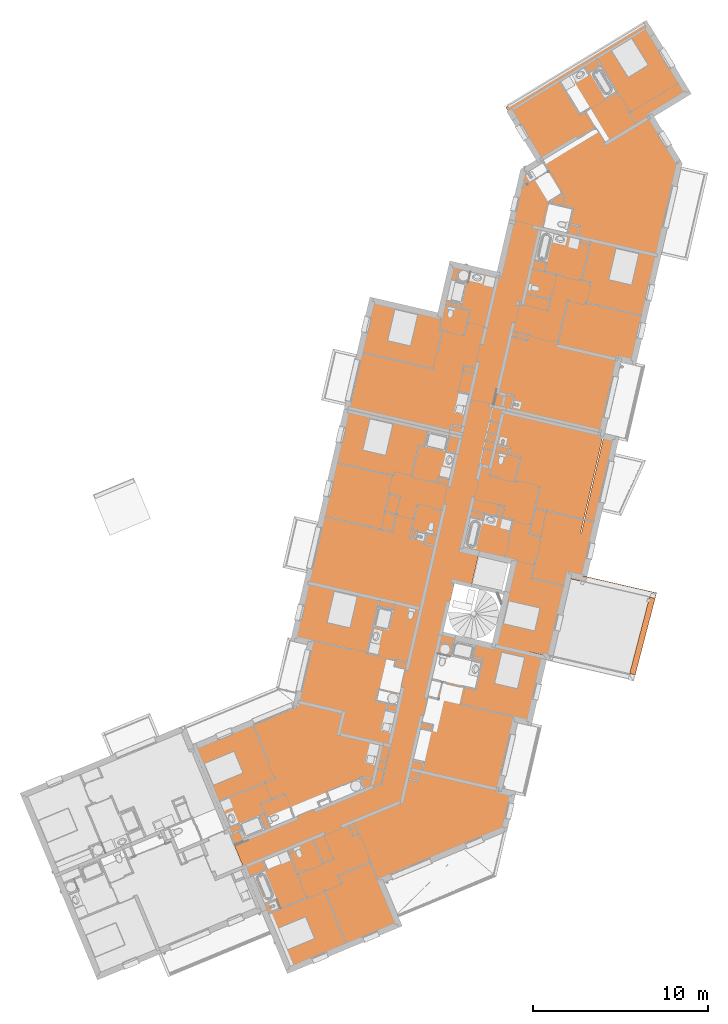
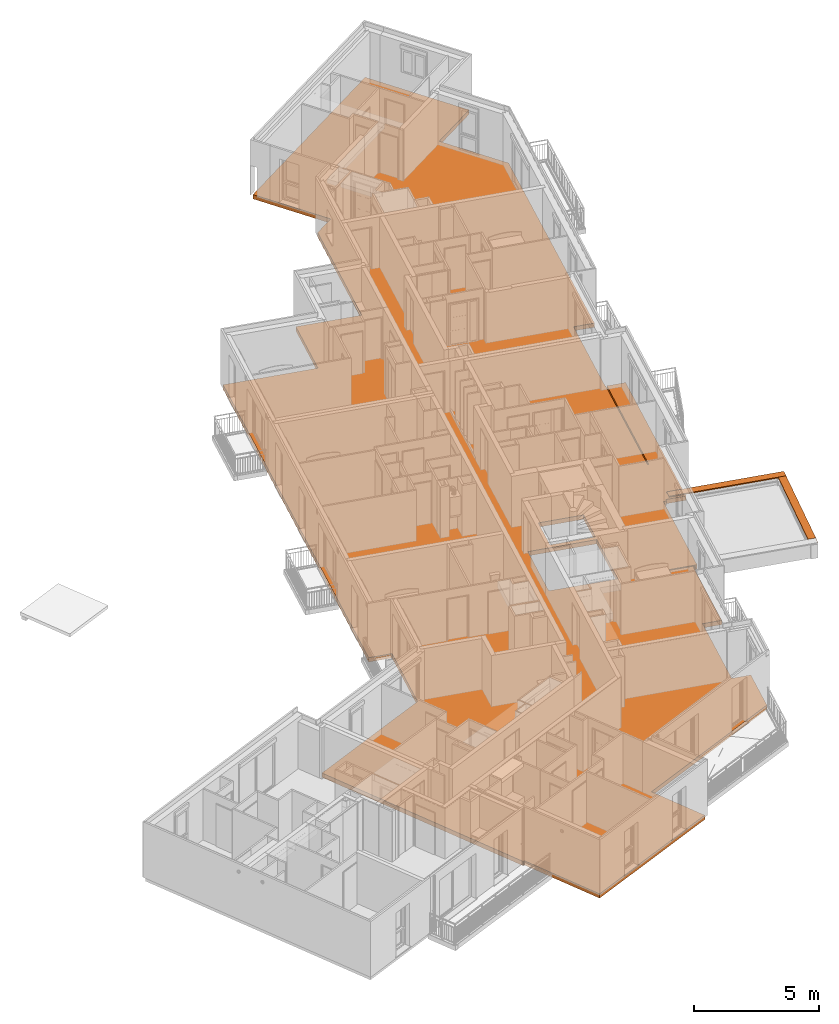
# One storey, part 90 of 90: 3 proxies, 2 openings.
"""IFC2X3 building model written with IfcOpenShell, lengths in metres."""

from ifc_helpers import new_model, entity, si_unit, converted_unit, derived_unit, money_unit, direction, frame, origin_with_axes, place, context, subcontext, project, spatial, faceted_brep, material, type_object, element, save


model = new_model("IFC2X3")

# Units and contexts
model_context = context("Model", 3, precision=1e-05, world=origin_with_axes(), true_north=direction((0.0, 1.0)))
body_context = subcontext(model_context, "Body", "Model", "MODEL_VIEW")
ifc_project = project(units=[si_unit("LENGTHUNIT", "METRE"), si_unit("AREAUNIT", "SQUARE_METRE"), si_unit("VOLUMEUNIT", "CUBIC_METRE"), converted_unit("PLANEANGLEUNIT", "DEGREE", entity("IfcPlaneAngleMeasure", 0.0174532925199), si_unit("PLANEANGLEUNIT", "RADIAN"), dimensions=[0, 0, 0, 0, 0, 0, 0]), si_unit("SOLIDANGLEUNIT", "STERADIAN"), money_unit("EUR"), converted_unit("TIMEUNIT", "Year", entity("IfcTimeMeasure", 31556926.0), si_unit("TIMEUNIT", "SECOND"), dimensions=[0, 0, 1, 0, 0, 0, 0]), si_unit("MASSUNIT", "GRAM", prefix="KILO"), si_unit("THERMODYNAMICTEMPERATUREUNIT", "DEGREE_CELSIUS"), si_unit("LUMINOUSINTENSITYUNIT", "LUMEN"), si_unit("ENERGYUNIT", "JOULE", prefix="MEGA"), derived_unit("THERMALCONDUCTANCEUNIT", [(si_unit("POWERUNIT", "WATT"), 1), (si_unit("LENGTHUNIT", "METRE"), -1), (si_unit("THERMODYNAMICTEMPERATUREUNIT", "KELVIN"), -1)]), derived_unit("SPECIFICHEATCAPACITYUNIT", [(si_unit("ENERGYUNIT", "JOULE"), 1), (si_unit("MASSUNIT", "GRAM", prefix="KILO"), -1), (si_unit("THERMODYNAMICTEMPERATUREUNIT", "KELVIN"), -1)]), derived_unit("MASSDENSITYUNIT", [(si_unit("MASSUNIT", "GRAM", prefix="KILO"), 1), (si_unit("VOLUMEUNIT", "CUBIC_METRE"), -1)])], contexts=[model_context])

# Site, building, storey
site_placement = place(None, origin_with_axes())
site = spatial("IfcSite", under=ifc_project, at=site_placement, Name="Site", CompositionType="ELEMENT")
building_placement = place(site_placement, origin_with_axes())
building = spatial("IfcBuilding", under=site, at=building_placement, Name="Bâtiment", CompositionType="ELEMENT")
storey_placement = place(building_placement, frame((0.0, 0.0, 2.72), z_axis=(0.0, 0.0, 1.0), x_axis=(1.0, 0.0, 0.0)))
storey = spatial("IfcBuildingStorey", under=building, at=storey_placement, Name="R+1", CompositionType="ELEMENT", Elevation=2.72)

# Proxies
ifc_material_1 = material(Name="Métal - Aluminium")
building_element_proxy_type_1 = type_object("IfcBuildingElementProxyType", Name="Couvertine Métal 330 x 50", PredefinedType="USERDEFINED")
proxy_1_placement = place(storey_placement, frame((0.706317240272, -6.62968321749, 0.228000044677), z_axis=(0.0, 0.0, 1.0), x_axis=(-0.974387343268, 0.224876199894, 0.0)))
element("IfcBuildingElementProxy", 1, at=proxy_1_placement, inside=storey, type_object=building_element_proxy_type_1, material=ifc_material_1, Name="Couvertine métal laqué", ObjectType="CONSTRUCTION ELEMENT", context=body_context, shape_type="Brep", body=[
    faceted_brep([(0.163677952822, 0.162869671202, -0.044253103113), (0.163737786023, 0.165000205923, -0.0442531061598), (0.169698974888, 0.165000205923, -0.048), (0.163570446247, 0.159041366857, -0.044253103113), (0.167507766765, 0.162869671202, -0.044253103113), (0.167567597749, 0.165000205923, -0.0442531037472), (0.167567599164, 0.165000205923, -0.0399754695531), (0.167567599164, 0.165000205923, 1.59957247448e-09), (-0.158300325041, 0.165000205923, -9.8968699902e-10), (-0.160431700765, 0.165000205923, -9.8968699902e-10), (-0.160431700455, 0.165000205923, 0.00200000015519), (4.74807510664, 0.165000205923, 0.002), (4.74807510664, 0.165000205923, -0.048), (4.74807510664, 0.154881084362, -0.0416371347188), (0.159291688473, 0.154881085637, -0.0416371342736), (0.159399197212, 0.158709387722, -0.0416371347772), (0.160511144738, 0.156066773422, -0.0399754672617), (4.74807510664, 0.156066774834, -0.0399754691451), (4.74807510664, 0.162869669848, -0.0442531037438), (0.16750776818, 0.162869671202, -0.0399754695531), (0.16750776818, 0.162869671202, 8.96030805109e-10), (-0.158360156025, 0.162869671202, 8.96030805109e-10), (-0.160491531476, 0.162869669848, 0.0), (-0.169698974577, -0.165000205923, 0.00200000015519), (-0.169639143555, -0.162869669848, 0.0), (-0.169639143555, -0.162869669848, -0.0442531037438), (-0.16953163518, -0.159041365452, -0.0442531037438), (-0.169698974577, -0.165000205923, -0.048), (4.74807510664, -0.165000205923, 0.002), (4.74807510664, -0.165000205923, -0.048), (4.74807510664, -0.154881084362, -0.0416371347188), (4.74807510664, -0.156066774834, -0.0399754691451), (4.74807510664, -0.162869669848, -0.0442531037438), (4.74807510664, -0.162869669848, 0.0), (4.74807510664, 0.162869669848, 0.0), (-0.167507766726, -0.162869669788, -0.0442531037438), (-0.167400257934, -0.159041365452, -0.0442531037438), (-0.163121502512, -0.154881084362, -0.0416371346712), (-0.160511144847, -0.156066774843, -0.0399754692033)], [[[0, 1, 2, 3]], [[0, 4, 5, 1]], [[1, 5, 6, 7, 8, 9, 10, 11, 12, 2]], [[2, 12, 13, 14, 3]], [[15, 0, 3, 14]], [[16, 17, 18, 4, 0, 15]], [[6, 5, 4, 19]], [[7, 6, 19, 20]], [[8, 7, 20, 21]], [[9, 8, 21, 22]], [[23, 10, 9, 22, 24, 25, 26, 27]], [[23, 28, 11, 10]], [[17, 13, 12, 11, 28, 29, 30, 31, 32, 33, 34, 18]], [[14, 13, 17, 16]], [[14, 16, 15]], [[4, 18, 34, 20, 19]], [[20, 34, 33, 24, 22, 21]], [[24, 33, 32, 35, 25]], [[35, 36, 26, 25]], [[37, 30, 29, 27, 26, 36]], [[27, 29, 28, 23]], [[38, 31, 30, 37]], [[35, 32, 31, 38]], [[35, 38, 37, 36]]]),
])
proxy_2_placement = place(storey_placement, frame((-0.513712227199, -11.3120444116, 0.228000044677), z_axis=(0.0, 0.0, 1.0), x_axis=(0.252140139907, 0.967690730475, 0.0)))
element("IfcBuildingElementProxy", 2, at=proxy_2_placement, inside=storey, type_object=building_element_proxy_type_1, material=ifc_material_1, Name="Couvertine métal laqué", ObjectType="CONSTRUCTION ELEMENT", context=body_context, shape_type="Brep", body=[
    faceted_brep([(0.160431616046, 0.165000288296, -0.0442531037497), (0.160431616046, 0.165000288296, -0.048), (0.160598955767, 0.159041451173, -0.0442531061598), (0.160491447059, 0.162869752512, -0.0442531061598), (4.6689970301, 0.165000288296, -0.048), (0.160431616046, 0.165000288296, -0.0399754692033), (0.160431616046, 0.165000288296, -1.27720500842e-09), (0.160431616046, 0.165000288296, 0.002), (4.6689970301, 0.165000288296, 0.002), (4.6689970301, 0.165000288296, -1.27720500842e-09), (4.6689970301, 0.165000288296, -0.0399754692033), (4.6689970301, 0.165000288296, -0.0442531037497), (0.154422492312, 0.154881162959, -0.0416371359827), (0.158467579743, 0.159041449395, -0.0442531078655), (4.66916436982, 0.159041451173, -0.0442531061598), (4.67129574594, 0.159041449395, -0.0442531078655), (4.67557449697, 0.154881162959, -0.0416371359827), (0.158360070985, 0.162869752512, -0.0442531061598), (0.160491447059, 0.162869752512, -0.0399754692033), (0.160491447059, 0.162869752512, 2.72269762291e-10), (0.169639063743, -0.162869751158, 0.0), (0.169698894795, -0.165000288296, 0.0), (0.169698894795, -0.165000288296, 0.002), (4.67826430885, -0.165000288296, 0.002), (4.6782044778, -0.162869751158, 0.0), (4.66905686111, 0.162869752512, 2.72269762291e-10), (4.67826430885, -0.165000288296, 0.0), (4.66905686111, 0.162869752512, -0.0399754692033), (4.66905686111, 0.162869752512, -0.0442531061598), (0.151745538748, 0.156066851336, -0.0399754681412), (4.67118823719, 0.162869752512, -0.0442531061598), (4.67818485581, 0.156066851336, -0.0399754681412), (-0.158360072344, -0.162869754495, 1.2062635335e-09), (-0.158300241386, -0.165000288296, 1.2062635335e-09), (-0.158300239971, -0.165000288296, -0.0442531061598), (-0.15447042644, -0.165000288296, -0.0442531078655), (-0.160431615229, -0.165000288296, -0.048), (5.00839481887, -0.165000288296, -0.048), (5.00243363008, -0.165000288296, -0.0442531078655), (5.00626344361, -0.165000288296, -0.0442531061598), (5.00626344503, -0.165000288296, -0.0399754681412), (5.00626344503, -0.165000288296, 1.2062635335e-09), (-0.158300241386, -0.165000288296, -0.0399754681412), (5.00620361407, -0.162869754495, 1.2062635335e-09), (-0.154530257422, -0.162869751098, -0.0442531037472), (-0.158360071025, -0.162869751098, -0.0442531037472), (-0.158360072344, -0.162869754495, -0.0399754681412), (5.00620361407, -0.162869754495, -0.0399754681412), (5.00620361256, -0.162869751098, -0.0442531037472), (5.00237379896, -0.162869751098, -0.0442531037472), (-0.154637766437, -0.159041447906, -0.0442531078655), (-0.150592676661, -0.154881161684, -0.0416371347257), (4.99798753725, -0.154881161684, -0.0416371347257), (5.00226629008, -0.159041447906, -0.0442531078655), (-0.15174553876, -0.156066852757, -0.0399754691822), (-0.150485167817, -0.158709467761, -0.0416371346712), (4.99809504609, -0.158709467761, -0.0416371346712), (4.99920699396, -0.156066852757, -0.0399754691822)], [[[0, 1, 2, 3]], [[4, 1, 0, 5, 6, 7, 8, 9, 10, 11]], [[12, 13, 2, 1, 4, 14, 15, 16]], [[2, 13, 17, 3]], [[0, 3, 18, 5]], [[18, 19, 6, 5]], [[7, 6, 19, 20, 21, 22]], [[8, 7, 22, 23]], [[24, 25, 9, 8, 23, 26]], [[25, 27, 10, 9]], [[27, 28, 11, 10]], [[28, 14, 4, 11]], [[13, 12, 29, 17]], [[15, 14, 28, 30]], [[16, 15, 30, 31]], [[31, 29, 12, 16]], [[3, 17, 29, 31, 30, 28]], [[19, 18, 3, 28, 27, 25]], [[24, 20, 19, 25]], [[20, 32, 33, 21]], [[34, 35, 36, 37, 38, 39, 40, 41, 26, 23, 22, 21, 33, 42]], [[43, 24, 26, 41]], [[44, 45, 46, 32, 20, 24, 43, 47, 48, 49]], [[33, 32, 46, 42]], [[34, 45, 44, 35]], [[44, 50, 36, 35]], [[36, 50, 51, 52, 53, 37]], [[37, 53, 49, 38]], [[39, 38, 49, 48]], [[47, 40, 39, 48]], [[43, 41, 40, 47]], [[42, 46, 45, 34]], [[54, 55, 44, 49, 56, 57]], [[55, 51, 50, 44]], [[52, 51, 54, 57]], [[53, 52, 56, 49]], [[54, 51, 55]], [[57, 56, 52]]]),
])

# Proxy, openings
ifc_material_2 = material(Name="Béton")
building_element_proxy_type_2 = type_object("IfcBuildingElementProxyType", Name="Béton 210", PredefinedType="NOTDEFINED")
proxy_3_placement = place(storey_placement, frame((-21.6359511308, -24.624488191, 0.0), z_axis=(0.0, 0.0, 1.0), x_axis=(1.0, 0.0, 0.0)))
proxy_3 = element("IfcBuildingElementProxy", 3, at=proxy_3_placement, inside=storey, type_object=building_element_proxy_type_2, material=ifc_material_2, Name="Dalle_004", context=body_context, shape_type="Brep", body=[
    faceted_brep([(16.3186251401, 14.5035873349, 0.0), (16.4234515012, 14.4793947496, 0.0), (17.4623061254, 18.9807460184, 1.35492540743e-07), (17.5909252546, 18.9510623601, 1.35492540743e-07), (17.6152118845, 19.0562961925, 0.0), (18.4491010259, 18.8638451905, 0.0), (20.3157105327, 26.9518539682, 0.0), (19.5480796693, 27.1290134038, 0.0), (18.2531054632, 21.5178972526, 1.82331172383e-09), (18.2063348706, 21.5286913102, 1.82331172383e-09), (19.5013090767, 27.1398074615, 0.0), (19.4818213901, 27.1443049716, 0.0), (20.4503631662, 31.3409912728, 0.0), (20.4698509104, 31.3364937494, 0.0), (20.4757964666, 31.3622558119, 0.0), (21.3095301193, 31.1698406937, 0.0), (23.9260077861, 42.5950444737, 0.0), (22.2795787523, 45.3038925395, 0.0), (24.4159275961, 46.6023584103, 0.0), (21.9419944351, 50.6726881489, 0.0), (13.9400862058, 45.8091543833, 0.0), (15.7839077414, 42.775539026, 0.0), (14.8584196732, 42.2130303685, 0.0), (13.5004698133, 36.3290411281, 0.0), (10.8108583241, 36.9497692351, 0.0), (10.1294834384, 33.997375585, 0.0), (6.25142181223, 34.8923828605, 0.0), (1.76053905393, 15.4334123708, 0.0), (2.71545694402, 15.2130294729, 0.0), (1.92915065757, 11.8060530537, 0.0), (-3.89466640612, 9.3902168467, 0.0), (0.0, 0.0, 0.0), (0.0628116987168, 0.0260516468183, 0.0), (1.52609154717, -3.50198224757, 0.0), (7.93306637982, -0.844638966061, 0.0), (6.90110871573, 1.64345803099, 0.0), (13.9442715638, 4.58243593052, 0.0), (14.4386662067, 6.72682757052, 0.0), (13.6591563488, 6.90672852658, 0.0), (14.5566389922, 10.7955159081, 0.0), (15.3361488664, 10.6156149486, 0.0), (16.2080673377, 14.3936329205, 0.0), (16.2275550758, 14.3891353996, 0.0), (16.2463712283, 14.4706656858, 0.0), (15.2827021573, 14.6930682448, 0.0), (15.2934962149, 14.7398388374, 0.0), (16.303935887, 14.5066422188, 0.0), (16.2743256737, 14.3783413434, 0.0), (16.2889414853, 14.3749682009, 0.0), (14.2221268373, 19.7695896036, 0.0), (13.8623249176, 18.2105698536, 0.0), (12.0109889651, 18.6378346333, 0.0), (12.370790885, 20.1968543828, 0.0), (13.8173496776, 18.0156923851, 0.0), (13.1742037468, 15.2289445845, 0.0), (10.3630962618, 15.8777124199, 0.0), (11.0062421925, 18.6644602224, 0.0), (16.3186251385, 14.5035873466, -0.21), (16.4234515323, 14.4793947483, -0.21), (17.4623061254, 18.9807460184, -0.210000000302), (17.5909252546, 18.9510623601, -0.21), (17.6152118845, 19.0562961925, -0.21), (18.4491010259, 18.8638451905, -0.21), (20.3157105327, 26.9518539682, -0.21), (19.5480796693, 27.1290134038, -0.21), (18.2531054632, 21.5178972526, -0.21), (18.2063348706, 21.5286913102, -0.200000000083), (18.1868471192, 21.5331888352, -0.21), (18.1868471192, 21.5331888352, -0.2), (19.5013090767, 27.1398074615, -0.200000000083), (19.4818213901, 27.1443049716, -0.2), (19.4818213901, 27.1443049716, -0.21), (20.4503631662, 31.3409912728, -0.21), (20.4503631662, 31.3409912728, -0.2), (20.4698509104, 31.3364937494, -0.200000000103), (20.4757964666, 31.3622558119, -0.200000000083), (20.5225670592, 31.3514617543, -0.200000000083), (21.2901978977, 31.1743023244, -0.200000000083), (21.3095301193, 31.1698406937, -0.200000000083), (23.9260077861, 42.5950444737, -0.200000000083), (23.9259730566, 42.5951016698, -0.2), (23.9259730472, 42.5951016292, -0.21), (22.2795787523, 45.3038925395, -0.21), (24.4159275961, 46.6023584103, -0.21), (21.9419944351, 50.6726881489, -0.21), (13.940128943, 45.8091803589, -0.20999999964), (13.940128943, 45.8091803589, -0.20000000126), (13.9400862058, 45.8091543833, -0.200000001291), (14.3724065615, 45.0978633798, -0.200000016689), (14.3724065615, 45.0978633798, -0.209999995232), (15.7839077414, 42.775539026, -0.21), (14.8584196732, 42.2130303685, -0.21), (13.5004698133, 36.3290411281, -0.21), (10.8108583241, 36.9497692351, -0.21), (10.1294834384, 33.997375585, -0.21), (6.25142181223, 34.8923828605, -0.21), (1.76053905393, 15.4334123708, -0.21), (2.71545694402, 15.2130294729, -0.21), (2.69679177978, 15.1321554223, -0.21), (2.69679188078, 15.132155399, -0.200000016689), (1.92915065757, 11.8060530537, -0.20000002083), (1.92915065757, 11.8060530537, -0.21), (-3.89466640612, 9.3902168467, -0.21), (0.0, 0.0, -0.21), (0.0628116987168, 0.0260516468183, -0.21), (1.52609154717, -3.50198224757, -0.21), (7.93306637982, -0.844638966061, -0.21), (6.90110871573, 1.64345803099, -0.21), (6.90110871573, 1.64345803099, -0.2), (13.9442715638, 4.58243593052, -0.200000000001), (6.96386425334, 1.66964470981, -0.2), (6.96385892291, 1.66964249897, -0.21), (13.9437142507, 4.58220337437, -0.21), (13.9437142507, 4.58220337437, -0.2), (14.4386662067, 6.72682757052, -0.21), (14.4386491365, 6.72675353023, -0.2), (14.4386491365, 6.72675353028, -0.21), (13.6591563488, 6.90672852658, -0.21), (14.5566389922, 10.7955159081, -0.21), (15.3361488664, 10.6156149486, -0.21), (16.2080673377, 14.3936329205, -0.21), (16.2080673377, 14.3936329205, -0.200000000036), (16.2275550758, 14.3891353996, -0.200000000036), (16.2463712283, 14.4706656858, -0.200000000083), (15.2827021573, 14.6930682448, -0.2), (15.2934962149, 14.7398388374, -0.2), (15.0888748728, 14.7870628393, -0.2), (15.0888748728, 14.7870628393, -0.21), (16.3039358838, 14.5066422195, -0.21), (16.27432567, 14.3783413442, -0.21), (16.288941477, 14.3749682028, -0.21), (14.2221268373, 19.7695896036, -0.21), (13.8623249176, 18.2105698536, -0.21), (12.0109889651, 18.6378346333, -0.21), (12.370790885, 20.1968543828, -0.21), (13.8151009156, 18.0059485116, -0.2), (13.8151009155, 18.0059485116, -0.21), (13.1742037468, 15.2289445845, -0.21), (13.1742037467, 15.2289445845, -0.2), (13.8173496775, 18.015692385, -0.2), (13.1644598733, 15.2311933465, -0.2), (13.1644598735, 15.2311933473, -0.21), (10.3630962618, 15.8777124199, -0.21), (10.3630962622, 15.8777124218, -0.2), (10.3653450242, 15.8874562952, -0.2), (10.3653450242, 15.8874562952, -0.209999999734), (11.0062421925, 18.6644602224, -0.21), (11.0062421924, 18.664460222, -0.2), (11.0159860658, 18.66221146, -0.2), (11.0159860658, 18.6622114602, -0.21), (13.8173496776, 18.0156923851, -0.21), (15.0735832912, 14.7208045, -0.21), (16.2223859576, 14.455675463, -0.21), (6.90105253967, 1.64359305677, -0.21), (1.92917126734, 11.8060596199, -0.21), (14.3724492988, 45.0978893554, -0.209999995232), (21.2946954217, 31.1937900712, -0.21), (20.4608062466, 31.3862410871, -0.21), (20.4608062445, 31.3862410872, -0.2), (20.5270645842, 31.3709495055, -0.2), (21.2946954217, 31.1937900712, -0.2), (14.3724492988, 45.0978893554, -0.200000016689), (1.92917125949, 11.8060595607, -0.200000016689), (6.90105253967, 1.64359305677, -0.2), (16.2223859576, 14.455675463, -0.2), (15.0735832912, 14.7208045, -0.2)], [[[0, 1, 2, 3, 4, 5, 6, 7, 8, 9, 10, 11, 12, 13, 14, 15, 16, 17, 18, 19, 20, 21, 22, 23, 24, 25, 26, 27, 28, 29, 30, 31, 32, 33, 34, 35, 36, 37, 38, 39, 40, 41, 42, 43, 44, 45, 46, 47, 48], [49, 50, 51, 52], [53, 54, 55, 56]], [[57, 58, 1, 0]], [[59, 2, 1, 58]], [[59, 60, 3, 2]], [[4, 3, 60, 61]], [[62, 5, 4, 61]], [[6, 5, 62, 63]], [[7, 6, 63, 64]], [[7, 64, 65, 8]], [[66, 9, 8, 65, 67, 68]], [[69, 10, 9, 66]], [[70, 11, 10, 69]], [[11, 70, 71, 72, 73, 12]], [[74, 13, 12, 73]], [[75, 14, 13, 74]], [[14, 75, 76, 77, 78, 15]], [[16, 15, 78, 79]], [[17, 16, 79, 80, 81, 82]], [[18, 17, 82, 83]], [[19, 18, 83, 84]], [[20, 19, 84, 85, 86, 87]], [[20, 87, 88, 89, 90, 21]], [[22, 21, 90, 91]], [[23, 22, 91, 92]], [[23, 92, 93, 24]], [[25, 24, 93, 94]], [[26, 25, 94, 95]], [[26, 95, 96, 27]], [[28, 27, 96, 97]], [[98, 99, 100, 29, 28, 97]], [[29, 100, 101, 102, 30]], [[30, 102, 103, 31]], [[32, 31, 103, 104]], [[33, 32, 104, 105]], [[34, 33, 105, 106]], [[35, 34, 106, 107, 108]], [[109, 36, 35, 108, 110, 111, 112, 113]], [[114, 37, 36, 109, 115, 116]], [[38, 37, 114, 117]], [[39, 38, 117, 118]], [[40, 39, 118, 119]], [[41, 40, 119, 120, 121]], [[42, 41, 121, 122]], [[123, 43, 42, 122]], [[44, 43, 123, 124]], [[45, 44, 124, 125]], [[126, 127, 128, 46, 45, 125]], [[46, 128, 129, 47]], [[48, 47, 129, 130]], [[57, 0, 48, 130]], [[50, 49, 131, 132]], [[50, 132, 133, 51]], [[134, 52, 51, 133]], [[131, 49, 52, 134]], [[135, 136, 137, 138, 54, 53, 139]], [[138, 140, 141, 142, 143, 55, 54]], [[55, 143, 144, 145, 146, 147, 56]], [[148, 149, 150, 139, 53, 56, 147]], [[60, 59, 58, 57, 130, 129, 128, 127, 151, 152, 120, 119, 118, 117, 114, 116, 112, 111, 153, 107, 106, 105, 104, 103, 102, 101, 154, 98, 97, 96, 95, 94, 93, 92, 91, 90, 89, 155, 85, 84, 83, 82, 81, 156, 157, 72, 71, 67, 65, 64, 63, 62, 61], [132, 131, 134, 133], [149, 146, 145, 142, 141, 137, 136, 150]], [[71, 70, 68, 67]], [[70, 69, 66, 68]], [[158, 73, 72, 157]], [[79, 78, 77, 76, 75, 74, 73, 158, 159, 160, 80]], [[81, 80, 160, 156]], [[161, 86, 85, 155]], [[161, 88, 87, 86]], [[88, 161, 155, 89]], [[162, 99, 98, 154]], [[100, 99, 162]], [[100, 162, 154, 101]], [[163, 108, 107, 153]], [[163, 110, 108]], [[110, 163, 153, 111]], [[115, 113, 112, 116]], [[113, 115, 109]], [[152, 164, 121, 120]], [[124, 123, 122, 121, 164, 165, 126, 125]], [[126, 165, 151, 127]], [[135, 139, 150, 136]], [[140, 138, 137, 141]], [[144, 143, 142, 145]], [[148, 147, 146, 149]], [[151, 165, 164, 152]], [[159, 158, 157, 156, 160]]]),
])
opening_1_placement = place(proxy_3_placement, origin_with_axes())
element("IfcOpeningElement", 4, at=opening_1_placement, cuts=proxy_3, Name="Ouverture de dalle", context=body_context, shape_type="Brep", body=[
    faceted_brep([(11.0137373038, 18.6524675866, -0.209999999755), (10.3750888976, 15.8852075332, -0.21), (10.3750888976, 15.8852075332, -0.2), (11.0137373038, 18.6524675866, -0.2), (11.089014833, 15.7101796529, -0.209999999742), (11.091263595, 15.7199235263, -0.209999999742), (11.9637649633, 18.4332132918, -0.209999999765), (11.9660137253, 18.4429571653, -0.209999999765), (13.8076058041, 18.017941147, -0.209999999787), (13.8053570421, 18.0081972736, -0.21), (13.7108739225, 17.5988024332, -0.21), (13.7174677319, 17.5829044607, -0.21), (13.6888269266, 17.4588040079, -0.21), (13.6822331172, 17.4747019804, -0.21), (13.1644598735, 15.2311933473, -0.21), (11.091263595, 15.7199235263, -0.2), (11.089014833, 15.7101796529, -0.2), (10.3630962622, 15.8777124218, -0.2), (10.3653450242, 15.8874562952, -0.2), (11.0062421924, 18.664460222, -0.2), (11.0159860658, 18.66221146, -0.2), (11.9660137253, 18.4429571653, -0.2), (11.9637649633, 18.4332132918, -0.2), (11.0062421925, 18.6644602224, 0.0), (13.8173496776, 18.0156923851, 0.0), (13.8173496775, 18.015692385, -0.2), (13.8076058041, 18.017941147, -0.2), (13.8053570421, 18.0081972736, -0.2), (13.7108739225, 17.5988024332, -0.2), (13.7174677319, 17.5829044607, -0.2), (13.6888269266, 17.4588040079, -0.2), (13.8151009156, 18.0059485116, -0.2), (13.1742037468, 15.2289445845, 0.0), (13.1742037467, 15.2289445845, -0.2), (13.6822331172, 17.4747019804, -0.2), (13.1644598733, 15.2311933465, -0.2), (10.3630962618, 15.8777124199, 0.0)], [[[0, 1, 2, 3]], [[4, 5, 1, 0, 6, 7, 8, 9, 10, 11, 12, 13, 14]], [[5, 15, 2, 1]], [[16, 17, 18, 19, 20, 21, 22, 3, 2, 15]], [[0, 3, 22, 6]], [[5, 4, 16, 15]], [[7, 6, 22, 21]], [[20, 19, 23, 24, 25, 26, 8, 7, 21]], [[27, 9, 8, 26]], [[28, 10, 9, 27]], [[11, 10, 28, 29]], [[30, 12, 11, 29, 31, 25, 24, 32, 33]], [[12, 30, 34, 13]], [[35, 14, 13, 34]], [[16, 4, 14, 35, 33, 32, 36, 17]], [[17, 36, 23, 19, 18]], [[23, 36, 32, 24]], [[29, 28, 27, 26, 25, 31]], [[33, 35, 34, 30]]]),
])
opening_2_placement = place(proxy_3_placement, origin_with_axes())
element("IfcOpeningElement", 5, at=opening_2_placement, cuts=proxy_3, Name="Ouverture de dalle", context=body_context, shape_type="Brep", body=[
    faceted_brep([(13.8623249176, 18.2105698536, 0.0), (12.0109889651, 18.6378346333, 0.0), (12.0109889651, 18.6378346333, -0.21), (13.8623249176, 18.2105698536, -0.21), (14.2221268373, 19.7695896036, 0.0), (12.370790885, 20.1968543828, 0.0), (12.370790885, 20.1968543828, -0.21), (14.2221268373, 19.7695896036, -0.21)], [[[0, 1, 2, 3]], [[1, 0, 4, 5]], [[6, 2, 1, 5]], [[2, 6, 7, 3]], [[0, 3, 7, 4]], [[6, 5, 4, 7]]]),
])

save(model, "model.ifc")
